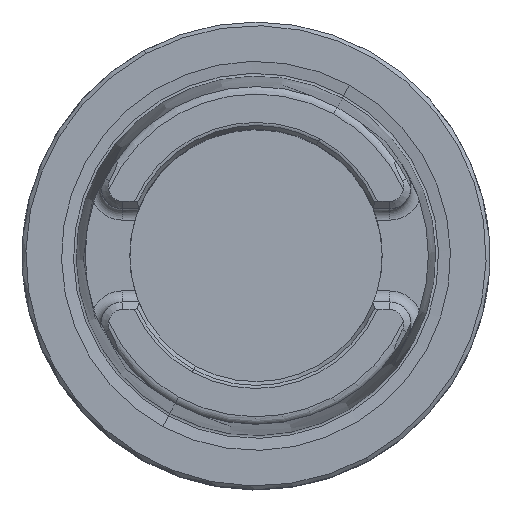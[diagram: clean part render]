
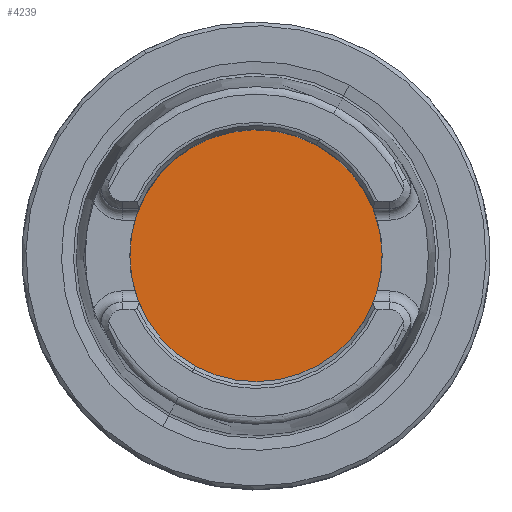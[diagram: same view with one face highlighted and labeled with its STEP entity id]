
A CAD part, top view. The second image highlights one B-rep face of the part: STEP entity #4239.
In plain terms, the highlighted planar face has unit normal (0, 0, 1).
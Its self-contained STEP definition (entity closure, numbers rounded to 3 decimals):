
#3869=AXIS2_PLACEMENT_3D('Circle Axis2P3D',#3867,#3868,$) ;
#4072=AXIS2_PLACEMENT_3D('Circle Axis2P3D',#4070,#4071,$) ;
#4233=AXIS2_PLACEMENT_3D('Plane Axis2P3D',#4230,#4231,#4232) ;
#3864=CARTESIAN_POINT('Vertex',(-8.15,-14.919,-10.)) ;
#3867=CARTESIAN_POINT('Axis2P3D Location',(0.,0.,-10.)) ;
#3871=CARTESIAN_POINT('Vertex',(8.15,14.919,-10.)) ;
#4070=CARTESIAN_POINT('Axis2P3D Location',(0.,0.,-10.)) ;
#4230=CARTESIAN_POINT('Axis2P3D Location',(0.,-15.75,-10.)) ;
#3868=DIRECTION('Axis2P3D Direction',(0.,0.,-1.)) ;
#4071=DIRECTION('Axis2P3D Direction',(0.,0.,-1.)) ;
#4231=DIRECTION('Axis2P3D Direction',(0.,0.,-1.)) ;
#4232=DIRECTION('Axis2P3D XDirection',(-1.,0.,0.)) ;
#4236=ORIENTED_EDGE('',*,*,#3873,.F.) ;
#4237=ORIENTED_EDGE('',*,*,#4074,.F.) ;
#4239=ADVANCED_FACE('NO_CUT',(#4238),#4234,.F.) ;
#3870=CIRCLE('generated circle',#3869,17.) ;
#4073=CIRCLE('generated circle',#4072,17.) ;
#3873=EDGE_CURVE('',#3865,#3872,#3870,.T.) ;
#4074=EDGE_CURVE('',#3872,#3865,#4073,.T.) ;
#4235=EDGE_LOOP('',(#4236,#4237)) ;
#4238=FACE_OUTER_BOUND('',#4235,.T.) ;
#4234=PLANE('',#4233) ;
#3865=VERTEX_POINT('',#3864) ;
#3872=VERTEX_POINT('',#3871) ;
